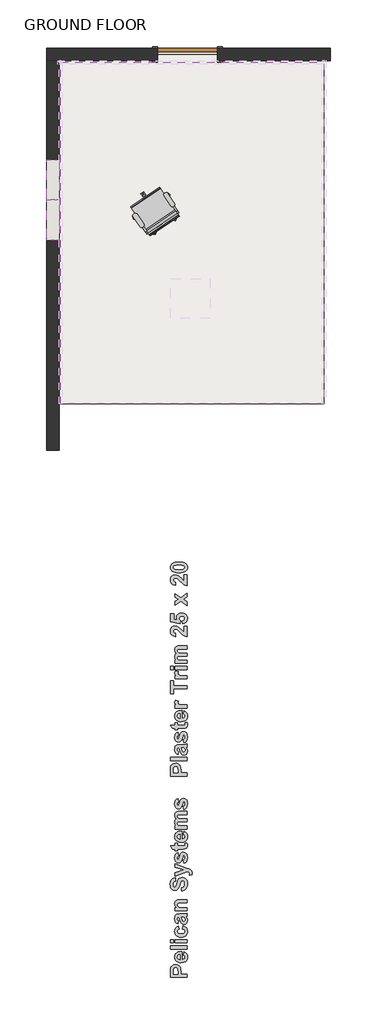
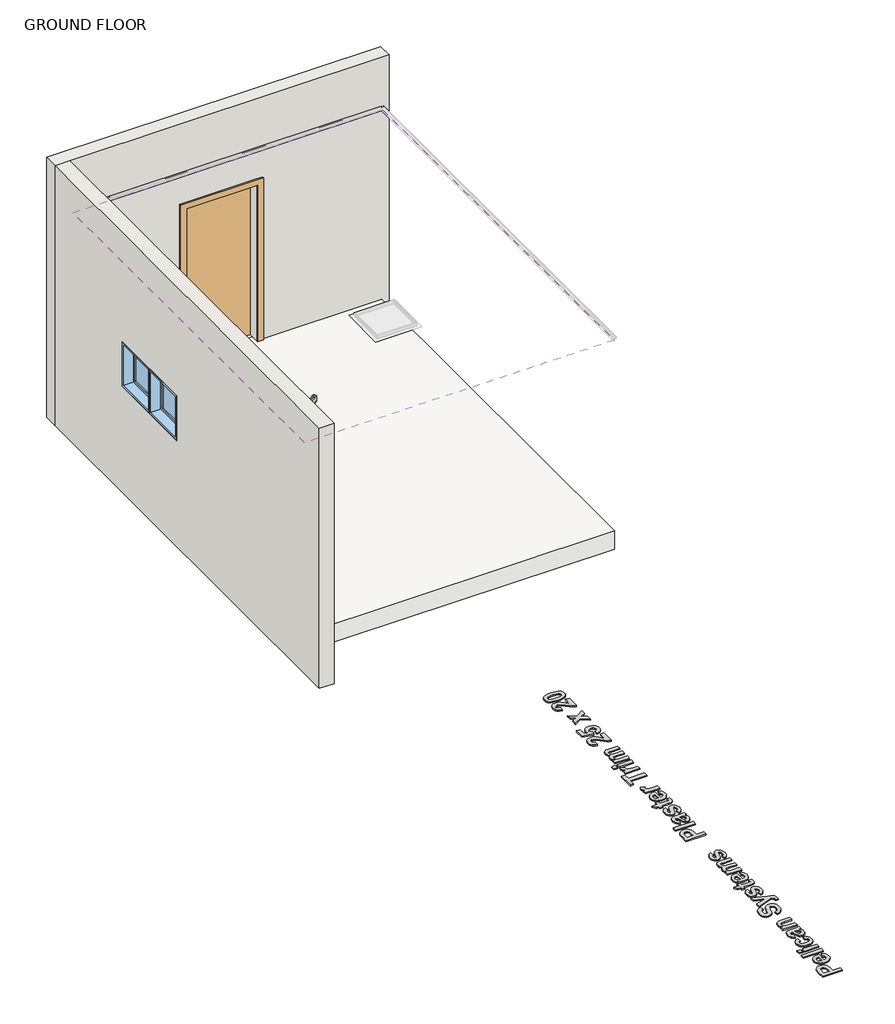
# One storey, part 1 of 2: 2 walls, 2 windows, 1 covering, 1 door, 1 furniture element, 1 proxy, 1 slab.
"""IFC4 building model written with IfcOpenShell, lengths in millimetres."""

from ifc_helpers import new_model, si_unit, frame, origin, origin_with_axes, place, context, project, spatial, polyline, outline, extrude, faceted_brep, transform, mapped, element, save
from components import m_single_flush_0915_x_2134mm_f5238887, chair_task_arms_chair_task_arms_3b363349, m_fixed_0610_x_0610mm_09852ef8

model = new_model("IFC4")

# Units and contexts
model_context = context("Model", 3, world=origin())
ifc_project = project(units=[si_unit("LENGTHUNIT", "METRE", prefix="MILLI")], contexts=[model_context])

# Site, building, storey
site = spatial("IfcSite", under=ifc_project)
building = spatial("IfcBuilding", under=site)
storey = spatial("IfcBuildingStorey", under=building, Name="GROUND FLOOR", Elevation=0.0)

# Proxy
placement = place(None, origin())
element("IfcBuildingElementProxy", 1, Name="600mm Arial", ObjectType="600mm Arial", at=placement, inside=storey, context=model_context, shape_type="SweptSolid", body=[
    extrude(outline(polyline([(114889.8852592, 28315.8799611), (114634.8204092, 28315.8799611), (114634.8204092, 28398.0548718), (114638.6160171, 28458.9743784), (114647.6701234, 28479.0199326), (114663.4456187, 28495.5071043), (114685.3573467, 28506.5380898), (114712.8201513, 28510.2150849), (114734.3048734, 28508.0563329), (114752.0730629, 28501.580077), (114766.2749624, 28491.7747566), (114777.0608148, 28479.6288113), (114789.1118698, 28452.5851052), (114792.7176973, 28398.4976928), (114792.7176973, 28364.4637421), (114889.8852592, 28364.4637421), (114889.8852592, 28315.8799611)]), holes=[polyline([(114679.3555418, 28364.4637421), (114748.1825648, 28364.4637421), (114748.1825648, 28394.6388248), (114744.3869569, 28438.1934253), (114732.4624221, 28455.400181), (114723.6771714, 28460.0735232), (114713.5792729, 28461.631304), (114701.5124028, 28459.4409219), (114691.7545275, 28452.8697757), (114684.764283, 28442.9616577), (114681.0003052, 28430.7603598), (114679.3555418, 28391.0962574), (114679.3555418, 28364.4637421)])]), origin_with_axes(), (0.0, 0.0, 1.0), 15.0),
    extrude(outline(polyline([(114833.2041814, 28655.9664278), (114841.3014783, 28704.5502087), (114863.9723279, 28692.7205641), (114880.4911297, 28675.5770685), (114890.5732131, 28653.2936872), (114893.9339076, 28626.0443856), (114891.9530748, 28604.0417211), (114886.0105762, 28585.0992655), (114876.1064118, 28569.2170187), (114862.2405818, 28556.3949809), (114833.5362971, 28543.0154631), (114798.1580686, 28538.5556238), (114776.3175082, 28540.0343294), (114756.975723, 28544.4704461), (114740.132713, 28551.8639739), (114725.7884782, 28562.2149129), (114714.3304869, 28574.8274017), (114706.1462074, 28589.0055786), (114701.2356397, 28604.7494438), (114699.5987838, 28622.0589973), (114701.2791311, 28641.294031), (114706.3201728, 28658.3861278), (114714.721909, 28673.3352876), (114726.4843397, 28686.1415105), (114741.7181701, 28696.3461604), (114760.5341054, 28703.4906015), (114782.9321457, 28707.5748337), (114808.912291, 28708.5988571), (114808.912291, 28587.1394047), (114829.3769435, 28590.2549662), (114844.7175254, 28598.5894885), (114854.3014353, 28610.8777691), (114857.4960719, 28625.8546052), (114856.0569039, 28636.0553014), (114851.7393999, 28644.516344), (114844.2272593, 28651.1744728), (114833.2041814, 28655.9664278)]), holes=[polyline([(114780.5717521, 28660.0150762), (114761.3643947, 28657.057665), (114747.3918131, 28649.1975937), (114738.8754179, 28637.77914), (114736.0366195, 28624.1465816), (114739.0256607, 28609.7549017), (114747.9927844, 28598.0834075), (114762.1472388, 28590.4289316), (114780.5717521, 28587.9617864), (114780.5717521, 28660.0150762)])]), origin_with_axes(), (0.0, 0.0, 1.0), 15.0),
    extrude(outline(polyline([(114889.8852592, 28745.0366928), (114634.8204092, 28745.0366928), (114634.8204092, 28793.6204738), (114889.8852592, 28793.6204738), (114889.8852592, 28745.0366928)])), origin_with_axes(), (0.0, 0.0, 1.0), 15.0),
    extrude(outline(polyline([(114679.3555418, 28842.2042547), (114634.8204092, 28842.2042547), (114634.8204092, 28890.7880357), (114679.3555418, 28890.7880357), (114679.3555418, 28842.2042547)])), origin_with_axes(), (0.0, 0.0, 1.0), 15.0),
    extrude(outline(polyline([(114889.8852592, 28842.2042547), (114703.6474322, 28842.2042547), (114703.6474322, 28890.7880357), (114889.8852592, 28890.7880357), (114889.8852592, 28842.2042547)])), origin_with_axes(), (0.0, 0.0, 1.0), 15.0),
    extrude(outline(polyline([(114756.2798616, 29093.2204563), (114764.3771584, 29044.6366754), (114752.0177102, 29040.9122351), (114743.1533843, 29034.2936439), (114737.8158107, 29025.0181271), (114736.0366195, 29013.3229103), (114739.3735915, 28997.9190683), (114749.3845073, 28985.9945335), (114767.2080493, 28978.3558726), (114793.9828999, 28975.8096523), (114823.6677166, 28978.4586703), (114843.1360221, 28986.4057244), (114853.9060595, 28998.8126176), (114857.4960719, 29014.8411534), (114855.4480252, 29026.9791912), (114849.3038849, 29036.6975289), (114838.1463792, 29043.9487214), (114821.0582362, 29048.6853238), (114829.155533, 29097.2691047), (114857.298384, 29086.6334951), (114877.5811636, 29069.2764966), (114889.8457216, 29045.0399587), (114893.9339076, 29013.7657312), (114892.324728, 28994.9992178), (114887.4971892, 28978.2372599), (114879.4512913, 28963.4798573), (114868.1870341, 28950.7270102), (114854.0800248, 28940.445262), (114837.5058704, 28933.1011561), (114818.4645708, 28928.6946926), (114796.9561261, 28927.2258714), (114775.2045253, 28928.6848082), (114756.0030985, 28933.0616185), (114739.3518458, 28940.3563024), (114725.2507671, 28950.5688599), (114714.0280244, 28963.272285), (114706.0117796, 28978.039572), (114701.2020328, 28994.8707207), (114699.5987838, 29013.7657312), (114703.1018136, 29043.007727), (114713.6109029, 29065.5757789), (114731.2842022, 29082.1024882), (114756.2798616, 29093.2204563)])), origin_with_axes(), (0.0, 0.0, 1.0), 15.0),
    extrude(outline(polyline([(114760.32851, 29174.1934246), (114752.2312132, 29129.658292), (114728.8882247, 29139.3133696), (114712.5038506, 29154.1083328), (114702.8250505, 29175.6721301), (114699.5987838, 29205.6337099), (114701.5519404, 29232.7248612), (114707.4114101, 29251.876866), (114716.2678285, 29264.8135629), (114727.2118312, 29273.2587904), (114744.220899, 29277.9084101), (114771.2725127, 29279.4582833), (114828.7127121, 29279.4582833), (114864.8975073, 29282.0203186), (114889.8852592, 29291.6042285), (114889.8852592, 29243.0204476), (114874.4497871, 29238.4657181), (114868.3135544, 29236.7576946), (114887.5130043, 29210.7577805), (114892.3286818, 29196.4451758), (114893.9339076, 29181.2152991), (114890.035502, 29156.4410502), (114878.3402852, 29137.5341784), (114860.6986161, 29125.554291), (114838.9608534, 29121.5609952), (114824.0630924, 29123.3401864), (114810.873355, 29128.67776), (114799.9767974, 29137.2257852), (114791.9585757, 29148.6363315), (114780.5084919, 29185.6435083), (114768.4258068, 29230.8745023), (114763.3017362, 29230.8745023), (114750.68134, 29229.3641667), (114742.2993725, 29224.8331598), (114737.6023078, 29216.1269842), (114736.0366195, 29202.0911425), (114737.3808973, 29192.0169666), (114741.4137307, 29184.4415659), (114760.32851, 29174.1934246)]), holes=[polyline([(114804.8636425, 29230.8745023), (114811.6008465, 29203.4828654), (114819.2869525, 29178.9379344), (114826.1981219, 29172.3430657), (114834.7856847, 29170.1447761), (114843.3969701, 29171.9081523), (114850.7588679, 29177.1982808), (114855.8117709, 29185.2085949), (114857.4960719, 29195.1325281), (114855.5350078, 29207.0412478), (114849.6518156, 29218.3489963), (114835.1019854, 29229.1032187), (114813.6568008, 29230.8745023), (114804.8636425, 29230.8745023)])]), origin_with_axes(), (0.0, 0.0, 1.0), 15.0),
    extrude(outline(polyline([(114889.8852592, 29494.0366491), (114889.8852592, 29445.4528682), (114794.1726803, 29445.4528682), (114754.8248786, 29442.4163819), (114740.9709098, 29432.4845412), (114736.0366195, 29415.9736469), (114737.7999957, 29404.21517), (114743.0901242, 29393.7377107), (114751.2981262, 29385.4506335), (114761.8151231, 29380.2633027), (114804.9269027, 29376.6258452), (114889.8852592, 29376.6258452), (114889.8852592, 29328.0420642), (114703.6474322, 29328.0420642), (114703.6474322, 29376.6258452), (114730.469728, 29376.6258452), (114716.9636899, 29388.9180795), (114707.3165199, 29402.7048344), (114701.5282178, 29417.9861099), (114699.5987838, 29434.761906), (114705.481976, 29462.9759246), (114720.4746272, 29482.3335248), (114741.1290601, 29491.4746138), (114774.2457389, 29494.0366491), (114889.8852592, 29494.0366491)])), origin_with_axes(), (0.0, 0.0, 1.0), 15.0),
    extrude(outline(polyline([(114804.8636425, 29627.6420468), (114800.8149941, 29676.2258277), (114822.5448493, 29683.3109624), (114837.6323906, 29695.2038671), (114846.457179, 29711.983617), (114849.3987751, 29733.7292872), (114846.7972022, 29756.2973391), (114838.9924835, 29772.5077478), (114827.7084575, 29782.2814381), (114814.6689629, 29785.5393348), (114799.4549013, 29780.1305936), (114788.5425286, 29761.1841842), (114777.7250462, 29719.0529367), (114766.5438179, 29683.089552), (114752.8638145, 29659.7149334), (114729.5682711, 29641.733241), (114701.6863682, 29635.7393436), (114682.8981091, 29638.4911593), (114665.3750527, 29646.7466065), (114650.4931068, 29660.1893844), (114639.6281792, 29678.5031924), (114632.9858654, 29701.387545), (114630.7717608, 29728.5419564), (114636.2912073, 29770.5071461), (114643.1905154, 29787.0476936), (114652.8495467, 29800.6268762), (114664.8096653, 29811.2881852), (114678.6122352, 29819.075112), (114694.2572565, 29823.9876566), (114711.7447291, 29826.025819), (114711.7447291, 29777.442038), (114695.0519619, 29772.0728344), (114683.815381, 29762.7973176), (114677.4340153, 29748.7614759), (114675.3068933, 29729.1112976), (114677.568443, 29708.4252346), (114684.3530921, 29692.7999821), (114691.1535563, 29686.4423389), (114699.9150845, 29684.3231245), (114708.1863467, 29686.2525585), (114715.1607762, 29692.0408606), (114723.3292406, 29708.844333), (114731.7665607, 29739.6441095), (114740.5439039, 29772.5156553), (114749.732438, 29795.5344356), (114760.8583136, 29811.6657691), (114775.4476814, 29823.8749745), (114793.6824143, 29831.5610805), (114815.7443852, 29834.1231158), (114836.8100089, 29831.094537), (114856.4839098, 29822.0088006), (114873.0264342, 29807.3798952), (114884.6979284, 29787.7218094), (114891.6249128, 29762.8210401), (114893.9339076, 29732.4640846), (114892.5125315, 29709.7616049), (114888.2484033, 29689.858386), (114881.1415229, 29672.754428), (114871.1918904, 29658.4497308), (114858.5181184, 29646.8454504), (114843.2388198, 29637.842743), (114825.3539945, 29631.4416084), (114804.8636425, 29627.6420468)])), origin_with_axes(), (0.0, 0.0, 1.0), 15.0),
    extrude(outline(polyline([(114703.6474322, 29854.3663579), (114703.6474322, 29902.9501388), (114835.4815462, 29945.4609471), (114703.6474322, 29987.9717555), (114703.6474322, 30036.5555364), (114882.104263, 29973.5484455), (114915.2525719, 29961.8453212), (114938.8486009, 29950.3003472), (114952.0699684, 29937.679951), (114959.9458548, 29920.1252645), (114962.7609306, 29896.6241257), (114959.9774849, 29870.5609515), (114923.9824701, 29866.5123031), (114926.3230949, 29885.8066432), (114923.7531521, 29899.5736293), (114916.0433236, 29909.2445219), (114889.8852592, 29920.9160161), (114703.6474322, 29854.3663579)])), origin_with_axes(), (0.0, 0.0, 1.0), 15.0),
    extrude(outline(polyline([(114837.2528298, 30044.6528332), (114829.155533, 30093.2366142), (114841.3963685, 30097.8625113), (114850.2844169, 30105.66723), (114855.6931582, 30116.9196259), (114857.4960719, 30131.8885545), (114855.7722333, 30148.1305933), (114850.6007176, 30159.7862725), (114844.9705659, 30164.5307823), (114837.6956508, 30166.1122856), (114828.5861918, 30162.7594987), (114822.1969186, 30146.8812057), (114809.7663027, 30099.9580032), (114798.4111091, 30074.0687944), (114780.4294168, 30058.0797961), (114756.5961623, 30052.7501301), (114734.4076711, 30057.3206746), (114716.046418, 30071.0323081), (114703.7106924, 30094.3594815), (114699.5987838, 30127.776646), (114702.9199407, 30159.6439372), (114712.8834114, 30182.1170989), (114729.3626757, 30197.1255651), (114752.2312132, 30206.5987698), (114760.32851, 30158.0149888), (114749.9380334, 30154.4407914), (114742.2993725, 30148.6524893), (114737.6023078, 30140.302152), (114736.0366195, 30129.0418486), (114737.3650823, 30115.2036948), (114741.3504706, 30105.9519006), (114751.2190511, 30101.333911), (114760.0122094, 30105.9519006), (114773.6131376, 30148.9371599), (114783.434273, 30180.1639423), (114795.3113627, 30200.2727566), (114810.9840603, 30211.0902391), (114831.8124585, 30214.6960666), (114855.5112853, 30209.4691982), (114875.6200996, 30193.7885931), (114883.6323906, 30182.0795382), (114889.3554556, 30167.8598468), (114893.9339076, 30131.8885545), (114890.1224847, 30098.5741878), (114878.6882159, 30073.0250022), (114860.7065236, 30055.0986625), (114837.2528298, 30044.6528332)])), origin_with_axes(), (0.0, 0.0, 1.0), 15.0),
    extrude(outline(polyline([(114703.6474322, 30348.3014642), (114740.0852679, 30348.3014642), (114740.0852679, 30311.8636285), (114819.982814, 30311.8636285), (114848.2284627, 30312.9706808), (114854.8707765, 30317.9998612), (114857.4960719, 30327.5521411), (114852.8148222, 30350.3257884), (114887.354854, 30352.3501126), (114892.2891442, 30333.6092987), (114893.9339076, 30312.5594899), (114889.3791782, 30288.0145589), (114877.6127937, 30271.9781156), (114858.0654131, 30264.8613508), (114822.7029996, 30263.2798475), (114740.0852679, 30263.2798475), (114740.0852679, 30238.9879571), (114703.6474322, 30238.9879571), (114703.6474322, 30263.2798475), (114667.2095965, 30263.2798475), (114638.8690576, 30311.8636285), (114703.6474322, 30311.8636285), (114703.6474322, 30348.3014642)])), origin_with_axes(), (0.0, 0.0, 1.0), 15.0),
    extrude(outline(polyline([(114833.2041814, 30481.9068618), (114841.3014783, 30530.4906428), (114863.9723279, 30518.6609982), (114880.4911297, 30501.5175026), (114890.5732131, 30479.2341212), (114893.9339076, 30451.9848196), (114891.9530748, 30429.9821552), (114886.0105762, 30411.0396996), (114876.1064118, 30395.1574528), (114862.2405818, 30382.3354149), (114833.5362971, 30368.9558971), (114798.1580686, 30364.4960578), (114776.3175082, 30365.9747634), (114756.975723, 30370.4108801), (114740.132713, 30377.804408), (114725.7884782, 30388.155347), (114714.3304869, 30400.7678357), (114706.1462074, 30414.9460127), (114701.2356397, 30430.6898779), (114699.5987838, 30447.9994313), (114701.2791311, 30467.2344651), (114706.3201728, 30484.3265618), (114714.721909, 30499.2757216), (114726.4843397, 30512.0819445), (114741.7181701, 30522.2865945), (114760.5341054, 30529.4310356), (114782.9321457, 30533.5152678), (114808.912291, 30534.5392912), (114808.912291, 30413.0798388), (114829.3769435, 30416.1954003), (114844.7175254, 30424.5299226), (114854.3014353, 30436.8182031), (114857.4960719, 30451.7950392), (114856.0569039, 30461.9957354), (114851.7393999, 30470.456778), (114844.2272593, 30477.1149068), (114833.2041814, 30481.9068618)]), holes=[polyline([(114780.5717521, 30485.9555102), (114761.3643947, 30482.9980991), (114747.3918131, 30475.1380277), (114738.8754179, 30463.719574), (114736.0366195, 30450.0870157), (114739.0256607, 30435.6953358), (114747.9927844, 30424.0238415), (114762.1472388, 30416.3693656), (114780.5717521, 30413.9022205), (114780.5717521, 30485.9555102)])]), origin_with_axes(), (0.0, 0.0, 1.0), 15.0),
    extrude(outline(polyline([(114703.6474322, 30566.9284785), (114703.6474322, 30615.5122594), (114728.571924, 30615.5122594), (114715.8961752, 30627.472378), (114706.8420689, 30640.5158264), (114701.4096051, 30654.6426045), (114699.5987838, 30669.8527123), (114701.377975, 30685.5016873), (114706.7155486, 30698.9207427), (114715.6589497, 30710.1256935), (114728.2556234, 30719.1323547), (114715.6589497, 30731.5708781), (114706.7155486, 30744.9741184), (114701.377975, 30759.3262607), (114699.5987838, 30774.61149), (114701.6784606, 30793.0676334), (114707.9174911, 30808.4556603), (114718.1893549, 30820.5699755), (114732.3675319, 30829.2049834), (114747.9453393, 30832.9057011), (114770.892952, 30834.1392737), (114889.8852592, 30834.1392737), (114889.8852592, 30785.5554927), (114782.6593364, 30785.5554927), (114759.7117237, 30784.3219202), (114746.6643216, 30780.6212025), (114738.6935451, 30772.2392351), (114736.0366195, 30760.2514402), (114737.6260303, 30750.5489175), (114742.3942627, 30741.4315511), (114750.2306115, 30733.8403353), (114761.0243715, 30728.7162646), (114799.802832, 30724.8257666), (114889.8852592, 30724.8257666), (114889.8852592, 30676.2419856), (114787.0875456, 30676.2419856), (114751.7567622, 30673.7115803), (114739.9271176, 30665.8989541), (114736.0366195, 30651.5072742), (114737.5785852, 30641.1167976), (114742.2044823, 30631.8333733), (114749.748253, 30624.3370478), (114760.0438394, 30619.3078673), (114798.7274098, 30615.5122594), (114889.8852592, 30615.5122594), (114889.8852592, 30566.9284785), (114703.6474322, 30566.9284785)])), origin_with_axes(), (0.0, 0.0, 1.0), 15.0),
    extrude(outline(polyline([(114837.2528298, 30862.4798126), (114829.155533, 30911.0635935), (114841.3963685, 30915.6894906), (114850.2844169, 30923.4942094), (114855.6931582, 30934.7466052), (114857.4960719, 30949.7155338), (114855.7722333, 30965.9575726), (114850.6007176, 30977.6132518), (114844.9705659, 30982.3577617), (114837.6956508, 30983.939265), (114828.5861918, 30980.586478), (114822.1969186, 30964.708185), (114809.7663027, 30917.7849825), (114798.4111091, 30891.8957737), (114780.4294168, 30875.9067755), (114756.5961623, 30870.5771094), (114734.4076711, 30875.1476539), (114716.046418, 30888.8592874), (114703.7106924, 30912.1864609), (114699.5987838, 30945.6036253), (114702.9199407, 30977.4709165), (114712.8834114, 30999.9440782), (114729.3626757, 31014.9525444), (114752.2312132, 31024.4257491), (114760.32851, 30975.8419681), (114749.9380334, 30972.2677707), (114742.2993725, 30966.4794687), (114737.6023078, 30958.1291313), (114736.0366195, 30946.8688279), (114737.3650823, 30933.0306742), (114741.3504706, 30923.77888), (114751.2190511, 30919.1608904), (114760.0122094, 30923.77888), (114773.6131376, 30966.7641393), (114783.434273, 30997.9909217), (114795.3113627, 31018.0997359), (114810.9840603, 31028.9172184), (114831.8124585, 31032.5230459), (114855.5112853, 31027.2961775), (114875.6200996, 31011.6155725), (114883.6323906, 30999.9065175), (114889.3554556, 30985.6868261), (114893.9339076, 30949.7155338), (114890.1224847, 30916.4011671), (114878.6882159, 30890.8519815), (114860.7065236, 30872.9256418), (114837.2528298, 30862.4798126)])), origin_with_axes(), (0.0, 0.0, 1.0), 15.0),
    extrude(outline(polyline([(114889.8852592, 31368.5608641), (114634.8204092, 31368.5608641), (114634.8204092, 31450.7357749), (114638.6160171, 31511.6552815), (114647.6701234, 31531.7008356), (114663.4456187, 31548.1880074), (114685.3573467, 31559.2189928), (114712.8201513, 31562.8959879), (114734.3048734, 31560.737236), (114752.0730629, 31554.26098), (114766.2749624, 31544.4556596), (114777.0608148, 31532.3097144), (114789.1118698, 31505.2660082), (114792.7176973, 31451.1785958), (114792.7176973, 31417.1446451), (114889.8852592, 31417.1446451), (114889.8852592, 31368.5608641)]), holes=[polyline([(114679.3555418, 31417.1446451), (114748.1825648, 31417.1446451), (114748.1825648, 31447.3197278), (114744.3869569, 31490.8743283), (114732.4624221, 31508.081084), (114723.6771714, 31512.7544263), (114713.5792729, 31514.312207), (114701.5124028, 31512.1218249), (114691.7545275, 31505.5506788), (114684.764283, 31495.6425607), (114681.0003052, 31483.4412629), (114679.3555418, 31443.7771604), (114679.3555418, 31417.1446451)])]), origin_with_axes(), (0.0, 0.0, 1.0), 15.0),
    extrude(outline(polyline([(114889.8852592, 31603.3824721), (114634.8204092, 31603.3824721), (114634.8204092, 31651.966253), (114889.8852592, 31651.966253), (114889.8852592, 31603.3824721)])), origin_with_axes(), (0.0, 0.0, 1.0), 15.0),
    extrude(outline(polyline([(114760.32851, 31741.0365181), (114752.2312132, 31696.5013856), (114728.8882247, 31706.1564631), (114712.5038506, 31720.9514264), (114702.8250505, 31742.5152237), (114699.5987838, 31772.4768034), (114701.5519404, 31799.5679547), (114707.4114101, 31818.7199595), (114716.2678285, 31831.6566564), (114727.2118312, 31840.1018839), (114744.220899, 31844.7515036), (114771.2725127, 31846.3013768), (114828.7127121, 31846.3013768), (114864.8975073, 31848.8634121), (114889.8852592, 31858.4473221), (114889.8852592, 31809.8635411), (114874.4497871, 31805.3088116), (114868.3135544, 31803.6007881), (114887.5130043, 31777.6008741), (114892.3286818, 31763.2882693), (114893.9339076, 31748.0583927), (114890.035502, 31723.2841437), (114878.3402852, 31704.3772719), (114860.6986161, 31692.3973845), (114838.9608534, 31688.4040887), (114824.0630924, 31690.1832799), (114810.873355, 31695.5208535), (114799.9767974, 31704.0688788), (114791.9585757, 31715.479425), (114780.5084919, 31752.4866019), (114768.4258068, 31797.7175959), (114763.3017362, 31797.7175959), (114750.68134, 31796.2072602), (114742.2993725, 31791.6762533), (114737.6023078, 31782.9700777), (114736.0366195, 31768.9342361), (114737.3808973, 31758.8600601), (114741.4137307, 31751.2846594), (114760.32851, 31741.0365181)]), holes=[polyline([(114804.8636425, 31797.7175959), (114811.6008465, 31770.325959), (114819.2869525, 31745.781028), (114826.1981219, 31739.1861593), (114834.7856847, 31736.9878697), (114843.3969701, 31738.7512459), (114850.7588679, 31744.0413743), (114855.8117709, 31752.0516885), (114857.4960719, 31761.9756216), (114855.5350078, 31773.8843414), (114849.6518156, 31785.1920898), (114835.1019854, 31795.9463122), (114813.6568008, 31797.7175959), (114804.8636425, 31797.7175959)])]), origin_with_axes(), (0.0, 0.0, 1.0), 15.0),
    extrude(outline(polyline([(114837.2528298, 31874.6419157), (114829.155533, 31923.2256967), (114841.3963685, 31927.8515938), (114850.2844169, 31935.6563125), (114855.6931582, 31946.9087084), (114857.4960719, 31961.877637), (114855.7722333, 31978.1196757), (114850.6007176, 31989.7753549), (114844.9705659, 31994.5198648), (114837.6956508, 31996.1013681), (114828.5861918, 31992.7485811), (114822.1969186, 31976.8702881), (114809.7663027, 31929.9470856), (114798.4111091, 31904.0578768), (114780.4294168, 31888.0688786), (114756.5961623, 31882.7392125), (114734.4076711, 31887.309757), (114716.046418, 31901.0213905), (114703.7106924, 31924.348564), (114699.5987838, 31957.7657284), (114702.9199407, 31989.6330196), (114712.8834114, 32012.1061813), (114729.3626757, 32027.1146475), (114752.2312132, 32036.5878522), (114760.32851, 31988.0040713), (114749.9380334, 31984.4298738), (114742.2993725, 31978.6415718), (114737.6023078, 31970.2912345), (114736.0366195, 31959.0309311), (114737.3650823, 31945.1927773), (114741.3504706, 31935.9409831), (114751.2190511, 31931.3229935), (114760.0122094, 31935.9409831), (114773.6131376, 31978.9262424), (114783.434273, 32010.1530248), (114795.3113627, 32030.2618391), (114810.9840603, 32041.0793215), (114831.8124585, 32044.685149), (114855.5112853, 32039.4582807), (114875.6200996, 32023.7776756), (114883.6323906, 32012.0686206), (114889.3554556, 31997.8489292), (114893.9339076, 31961.877637), (114890.1224847, 31928.5632703), (114878.6882159, 31903.0140847), (114860.7065236, 31885.0877449), (114837.2528298, 31874.6419157)])), origin_with_axes(), (0.0, 0.0, 1.0), 15.0),
    extrude(outline(polyline([(114703.6474322, 32178.2905467), (114740.0852679, 32178.2905467), (114740.0852679, 32141.8527109), (114819.982814, 32141.8527109), (114848.2284627, 32142.9597632), (114854.8707765, 32147.9889437), (114857.4960719, 32157.5412235), (114852.8148222, 32180.3148709), (114887.354854, 32182.3391951), (114892.2891442, 32163.5983811), (114893.9339076, 32142.5485724), (114889.3791782, 32118.0036414), (114877.6127937, 32101.9671981), (114858.0654131, 32094.8504333), (114822.7029996, 32093.26893), (114740.0852679, 32093.26893), (114740.0852679, 32068.9770395), (114703.6474322, 32068.9770395), (114703.6474322, 32093.26893), (114667.2095965, 32093.26893), (114638.8690576, 32141.8527109), (114703.6474322, 32141.8527109), (114703.6474322, 32178.2905467)])), origin_with_axes(), (0.0, 0.0, 1.0), 15.0),
    extrude(outline(polyline([(114833.2041814, 32311.8959443), (114841.3014783, 32360.4797252), (114863.9723279, 32348.6500806), (114880.4911297, 32331.506585), (114890.5732131, 32309.2232037), (114893.9339076, 32281.9739021), (114891.9530748, 32259.9712376), (114886.0105762, 32241.028782), (114876.1064118, 32225.1465353), (114862.2405818, 32212.3244974), (114833.5362971, 32198.9449796), (114798.1580686, 32194.4851403), (114776.3175082, 32195.9638459), (114756.975723, 32200.3999626), (114740.132713, 32207.7934905), (114725.7884782, 32218.1444295), (114714.3304869, 32230.7569182), (114706.1462074, 32244.9350951), (114701.2356397, 32260.6789603), (114699.5987838, 32277.9885138), (114701.2791311, 32297.2235475), (114706.3201728, 32314.3156443), (114714.721909, 32329.2648041), (114726.4843397, 32342.071027), (114741.7181701, 32352.2756769), (114760.5341054, 32359.420118), (114782.9321457, 32363.5043503), (114808.912291, 32364.5283736), (114808.912291, 32243.0689213), (114829.3769435, 32246.1844827), (114844.7175254, 32254.519005), (114854.3014353, 32266.8072856), (114857.4960719, 32281.7841217), (114856.0569039, 32291.9848179), (114851.7393999, 32300.4458605), (114844.2272593, 32307.1039893), (114833.2041814, 32311.8959443)]), holes=[polyline([(114780.5717521, 32315.9445927), (114761.3643947, 32312.9871815), (114747.3918131, 32305.1271102), (114738.8754179, 32293.7086565), (114736.0366195, 32280.0760981), (114739.0256607, 32265.6844182), (114747.9927844, 32254.012924), (114762.1472388, 32246.3584481), (114780.5717521, 32243.891303), (114780.5717521, 32315.9445927)])]), origin_with_axes(), (0.0, 0.0, 1.0), 15.0),
    extrude(outline(polyline([(114889.8852592, 32449.5499903), (114889.8852592, 32400.9662093), (114703.6474322, 32400.9662093), (114703.6474322, 32449.5499903), (114729.5840861, 32449.5499903), (114705.3870858, 32468.9708506), (114699.5987838, 32488.5814914), (114702.1608191, 32503.7481079), (114709.8469251, 32518.3770133), (114756.0900812, 32504.2067439), (114750.1594439, 32492.5036195), (114748.1825648, 32481.6861371), (114753.7178263, 32464.5742715), (114761.4750999, 32458.3273335), (114773.6763977, 32453.5670086), (114834.1530834, 32449.5499903), (114889.8852592, 32449.5499903)])), origin_with_axes(), (0.0, 0.0, 1.0), 15.0),
    extrude(outline(polyline([(114889.8852592, 32692.468895), (114679.3555418, 32692.468895), (114679.3555418, 32619.5932236), (114634.8204092, 32619.5932236), (114634.8204092, 32813.9283474), (114679.3555418, 32813.9283474), (114679.3555418, 32741.052676), (114889.8852592, 32741.052676), (114889.8852592, 32692.468895)])), origin_with_axes(), (0.0, 0.0, 1.0), 15.0),
    extrude(outline(polyline([(114889.8852592, 32894.9013157), (114889.8852592, 32846.3175347), (114703.6474322, 32846.3175347), (114703.6474322, 32894.9013157), (114729.5840861, 32894.9013157), (114705.3870858, 32914.322176), (114699.5987838, 32933.9328168), (114702.1608191, 32949.0994333), (114709.8469251, 32963.7283387), (114756.0900812, 32949.5580692), (114750.1594439, 32937.8549449), (114748.1825648, 32927.0374624), (114753.7178263, 32909.9255969), (114761.4750999, 32903.6786589), (114773.6763977, 32898.918334), (114834.1530834, 32894.9013157), (114889.8852592, 32894.9013157)])), origin_with_axes(), (0.0, 0.0, 1.0), 15.0),
    extrude(outline(polyline([(114679.3555418, 32983.9715807), (114634.8204092, 32983.9715807), (114634.8204092, 33032.5553617), (114679.3555418, 33032.5553617), (114679.3555418, 32983.9715807)])), origin_with_axes(), (0.0, 0.0, 1.0), 15.0),
    extrude(outline(polyline([(114889.8852592, 32983.9715807), (114703.6474322, 32983.9715807), (114703.6474322, 33032.5553617), (114889.8852592, 33032.5553617), (114889.8852592, 32983.9715807)])), origin_with_axes(), (0.0, 0.0, 1.0), 15.0),
    extrude(outline(polyline([(114703.6474322, 33077.0904942), (114703.6474322, 33125.6742752), (114728.571924, 33125.6742752), (114715.8961752, 33137.6343938), (114706.8420689, 33150.6778421), (114701.4096051, 33164.8046202), (114699.5987838, 33180.0147281), (114701.377975, 33195.6637031), (114706.7155486, 33209.0827585), (114715.6589497, 33220.2877093), (114728.2556234, 33229.2943705), (114715.6589497, 33241.7328938), (114706.7155486, 33255.1361342), (114701.377975, 33269.4882765), (114699.5987838, 33284.7735058), (114701.6784606, 33303.2296491), (114707.9174911, 33318.6176761), (114718.1893549, 33330.7319913), (114732.3675319, 33339.3669992), (114747.9453393, 33343.0677169), (114770.892952, 33344.3012895), (114889.8852592, 33344.3012895), (114889.8852592, 33295.7175085), (114782.6593364, 33295.7175085), (114759.7117237, 33294.4839359), (114746.6643216, 33290.7832183), (114738.6935451, 33282.4012508), (114736.0366195, 33270.4134559), (114737.6260303, 33260.7109333), (114742.3942627, 33251.5935668), (114750.2306115, 33244.0023511), (114761.0243715, 33238.8782804), (114799.802832, 33234.9877823), (114889.8852592, 33234.9877823), (114889.8852592, 33186.4040014), (114787.0875456, 33186.4040014), (114751.7567622, 33183.8735961), (114739.9271176, 33176.0609699), (114736.0366195, 33161.66929), (114737.5785852, 33151.2788134), (114742.2044823, 33141.9953891), (114749.748253, 33134.4990635), (114760.0438394, 33129.4698831), (114798.7274098, 33125.6742752), (114889.8852592, 33125.6742752), (114889.8852592, 33077.0904942), (114703.6474322, 33077.0904942)])), origin_with_axes(), (0.0, 0.0, 1.0), 15.0),
    extrude(outline(polyline([(114841.3014783, 33643.901272), (114889.8852592, 33643.901272), (114889.8852592, 33481.9553355), (114865.3798658, 33487.1268512), (114842.2187502, 33497.4540677), (114816.0369633, 33516.6377026), (114782.469556, 33548.3784735), (114741.7300314, 33585.9549916), (114727.0220508, 33592.9768662), (114712.5038506, 33595.317491), (114698.3573037, 33593.3485194), (114687.9272896, 33587.4416047), (114681.4984787, 33578.0711977), (114679.3555418, 33565.7117495), (114681.4668486, 33553.439284), (114687.8007693, 33543.9502643), (114699.0215351, 33537.560991), (114715.7933775, 33534.5877648), (114711.3651683, 33486.0039839), (114676.2162577, 33494.6073618), (114662.9770984, 33502.2302076), (114652.6281362, 33512.0671581), (114639.272341, 33536.6911642), (114634.8204092, 33566.7871718), (114639.8100521, 33598.9233185), (114654.7789807, 33623.3417293), (114677.1651597, 33638.7613863), (114704.4065538, 33643.901272), (114736.5427006, 33638.2711203), (114768.489067, 33620.4317632), (114800.3721732, 33590.2250505), (114828.0168507, 33562.4854828), (114841.3014783, 33553.3760239), (114841.3014783, 33643.901272)])), origin_with_axes(), (0.0, 0.0, 1.0), 15.0),
    extrude(outline(polyline([(114818.08501, 33676.2904593), (114812.9609394, 33720.8255918), (114828.0326657, 33724.9691304), (114839.5934547, 33733.2245776), (114846.947445, 33744.3267307), (114849.3987751, 33757.010387), (114846.7972022, 33771.204379), (114838.9924835, 33783.0419311), (114825.9529889, 33791.0364302), (114807.6470883, 33793.7012633), (114790.4877777, 33791.2262106), (114778.2311272, 33783.8010527), (114770.8771369, 33772.4063215), (114768.4258068, 33758.0225491), (114773.4866173, 33739.20266), (114788.6690489, 33722.4703552), (114782.4062959, 33680.3391077), (114638.8690576, 33708.6796466), (114638.8690576, 33830.139099), (114687.4528386, 33830.139099), (114687.4528386, 33747.9641882), (114733.8225149, 33738.1588678), (114726.3736345, 33753.641785), (114723.8906743, 33769.4726329), (114729.6394387, 33797.5917613), (114746.8857321, 33821.0929002), (114773.3047445, 33836.9870082), (114806.5716661, 33842.2850442), (114835.4973612, 33837.87265), (114861.1651595, 33824.6354675), (114875.5014868, 33811.4180538), (114885.7417206, 33795.8679228), (114891.8858609, 33777.9850743), (114893.9339076, 33757.7695086), (114888.7940219, 33726.7641367), (114873.3743649, 33702.0689629), (114849.2722548, 33684.8542996), (114818.08501, 33676.2904593)])), origin_with_axes(), (0.0, 0.0, 1.0), 15.0),
    extrude(outline(polyline([(114889.8852592, 33953.6228755), (114793.9828999, 34019.4134122), (114703.6474322, 33961.7201724), (114703.6474322, 34019.4766724), (114754.8248786, 34047.5641707), (114703.6474322, 34078.0555541), (114703.6474322, 34135.8120541), (114791.8320555, 34076.4107907), (114889.8852592, 34143.9093509), (114889.8852592, 34086.1528509), (114832.1920193, 34047.5641707), (114889.8852592, 34011.3793756), (114889.8852592, 33953.6228755)])), origin_with_axes(), (0.0, 0.0, 1.0), 15.0),
    extrude(outline(polyline([(114841.3014783, 34421.2417672), (114889.8852592, 34421.2417672), (114889.8852592, 34259.2958307), (114865.3798658, 34264.4673464), (114842.2187502, 34274.7945629), (114816.0369633, 34293.9781978), (114782.469556, 34325.7189687), (114741.7300314, 34363.2954868), (114727.0220508, 34370.3173614), (114712.5038506, 34372.6579862), (114698.3573037, 34370.6890147), (114687.9272896, 34364.7820999), (114681.4984787, 34355.4116929), (114679.3555418, 34343.0522447), (114681.4668486, 34330.7797792), (114687.8007693, 34321.2907595), (114699.0215351, 34314.9014862), (114715.7933775, 34311.9282601), (114711.3651683, 34263.3444791), (114676.2162577, 34271.947857), (114662.9770984, 34279.5707028), (114652.6281362, 34289.4076533), (114639.272341, 34314.0316594), (114634.8204092, 34344.127667), (114639.8100521, 34376.2638137), (114654.7789807, 34400.6822245), (114677.1651597, 34416.1018815), (114704.4065538, 34421.2417672), (114736.5427006, 34415.6116155), (114768.489067, 34397.7722584), (114800.3721732, 34367.5655457), (114828.0168507, 34339.825978), (114841.3014783, 34330.7165191), (114841.3014783, 34421.2417672)])), origin_with_axes(), (0.0, 0.0, 1.0), 15.0),
    extrude(outline(polyline([(114634.8204092, 34534.6039227), (114636.4651726, 34551.7355571), (114641.3994629, 34566.8824048), (114649.62328, 34580.0444659), (114661.1366239, 34591.2217404), (114679.2646053, 34601.8771188), (114702.5245649, 34609.4881033), (114730.9165026, 34614.0546941), (114764.4404186, 34615.576891), (114797.9327044, 34614.0467866), (114826.3562722, 34609.4564733), (114849.711122, 34601.8059511), (114867.9972537, 34591.0952201), (114879.3445398, 34579.9732983), (114887.4497441, 34566.8507747), (114892.3128668, 34551.7276496), (114893.9339076, 34534.6039227), (114892.1547164, 34517.2963462), (114886.8171428, 34501.748192), (114877.9211869, 34487.9594602), (114865.4668485, 34475.9301508), (114848.4459194, 34466.1742524), (114825.8501912, 34459.2057536), (114797.6796639, 34455.0246543), (114763.9343375, 34453.6309545), (114730.6081095, 34455.1610589), (114702.3031544, 34459.7513722), (114679.0194723, 34467.4018944), (114660.7570631, 34478.1126254), (114649.409777, 34489.2345472), (114641.3045727, 34502.3570707), (114636.4414501, 34517.4801959), (114634.8204092, 34534.6039227)]), holes=[polyline([(114679.3555418, 34534.6039227), (114684.7010229, 34518.4093291), (114692.1736259, 34512.0833159), (114703.9004728, 34507.4020662), (114728.0500279, 34503.5115681), (114764.4404186, 34502.2147354), (114800.3484507, 34503.3692328), (114822.9244101, 34506.832725), (114836.1774076, 34512.0595934), (114844.1165541, 34518.5042193), (114849.3987751, 34534.6039227), (114844.053294, 34550.7985164), (114836.580691, 34557.1245295), (114824.8538441, 34561.8057793), (114800.8308092, 34565.6962773), (114764.4404186, 34566.99311), (114728.571924, 34565.8386126), (114705.9880571, 34562.3751204), (114692.695522, 34557.1482521), (114684.7010229, 34550.7036262), (114679.3555418, 34534.6039227)])]), origin_with_axes(), (0.0, 0.0, 1.0), 15.0),
])

# Covering
element("IfcCovering", 2, ObjectType="_C2.3 - 12mm FLUSHPLASTER CEILING (UNDER CONCRETE SOFFIT)", at=placement, inside=storey, context=model_context, shape_type="SweptSolid", body=[
    extrude(outline(polyline([(112967.7345529, 42191.9193804), (116966.7345529, 42191.9193804), (116966.7345529, 37012.9193804), (112967.7345529, 37012.9193804), (112967.7345529, 42191.9193804)]), holes=[polyline([(114682.6212716, 38869.9489557), (114682.6212716, 38359.2489557), (115193.3212716, 38359.2489557), (115193.3212716, 38869.9489557), (114682.6212716, 38869.9489557)])]), frame((0.0, 0.0, 2600.0), z_axis=(0.0, 0.0, 1.0), x_axis=(1.0, 0.0, 0.0)), (0.0, 0.0, 1.0), 11.0),
])

# Door
m_single_flush_0915_x_2134mm_shape = m_single_flush_0915_x_2134mm_f5238887(model_context)
element("IfcDoor", 3, ObjectType="M_Single-Flush : 0915 x 2134mm", at=placement, inside=storey, context=model_context, shape_type="MappedRepresentation", body=[
    mapped(m_single_flush_0915_x_2134mm_shape, transform((114894.7345529, 42312.9193804, 0.0), x_axis=(1.0, 0.0, 0.0), y_axis=(0.0, 1.0, 0.0), z_axis=(0.0, 0.0, 1.0))),
])

# Furniture
chair_task_arms_chair_task_arms_shape = chair_task_arms_chair_task_arms_3b363349(model_context)
element("IfcFurniture", 4, ObjectType="Chair-Task Arms : Chair-Task Arms", at=placement, inside=storey, context=model_context, shape_type="MappedRepresentation", body=[
    mapped(chair_task_arms_chair_task_arms_shape, transform((114292.677586, 39836.7323612, 0.0), x_axis=(0.8290375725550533, 0.5591929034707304, 0.0), y_axis=(-0.5591929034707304, 0.8290375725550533, 0.0), z_axis=(0.0, 0.0, 1.0))),
])

# Slab
element("IfcSlab", 5, ObjectType="Generic Floor - 250mm", at=placement, inside=storey, context=model_context, shape_type="Brep", body=[
    faceted_brep([(112866.7345529, 42312.9193804, -250.0), (116966.7345529, 42312.9193804, -250.0), (116966.7345529, 42217.9193804, -250.0), (116966.7345529, 37012.9193804, -250.0), (112866.7345529, 37012.9193804, -250.0), (112866.7345529, 42217.9193804, -250.0), (112866.7345529, 42312.9193804, 0.0), (112866.7345529, 42217.9193804, 0.0), (112866.7345529, 37012.9193804, 0.0), (116966.7345529, 37012.9193804, 0.0), (116966.7345529, 42217.9193804, 0.0), (116966.7345529, 42312.9193804, 0.0), (115352.2345529, 42312.9193804, 0.0), (114437.2345529, 42312.9193804, 0.0)], [[[0, 1, 2, 3, 4, 5]], [[6, 7, 8, 9, 10, 11, 12, 13]], [[1, 0, 6, 13, 12, 11]], [[3, 2, 1, 11, 10, 9]], [[4, 3, 9, 8]], [[0, 5, 4, 8, 7, 6]]]),
])

# Walls
element("IfcWall", 6, ObjectType="190mm MAXI BLOCK- plastered", at=placement, inside=storey, context=model_context, shape_type="Brep", body=[
    faceted_brep([(117061.7345529, 42217.9193804, -250.0), (117061.7345529, 42217.9193804, 3300.0), (112942.7345529, 42217.9193804, 3300.0), (112752.7345529, 42217.9193804, 3300.0), (112752.7345529, 42217.9193804, -250.0), (112866.7345529, 42217.9193804, -250.0), (112866.7345529, 42217.9193804, 0.0), (114437.2345529, 42217.9193804, 0.0), (114437.2345529, 42217.9193804, 2134.0), (115352.2345529, 42217.9193804, 2134.0), (115352.2345529, 42217.9193804, 0.0), (116966.7345529, 42217.9193804, 0.0), (116966.7345529, 42217.9193804, -250.0), (117061.7345529, 42407.9193804, -250.0), (112752.7345529, 42407.9193804, -250.0), (112752.7345529, 42407.9193804, 3300.0), (117061.7345529, 42407.9193804, 3300.0), (114437.2345529, 42407.9193804, 0.0), (115352.2345529, 42407.9193804, 0.0), (115352.2345529, 42407.9193804, 2134.0), (114437.2345529, 42407.9193804, 2134.0), (116966.7345529, 42312.9193804, -250.0), (112866.7345529, 42312.9193804, -250.0), (114437.2345529, 42312.9193804, 0.0), (115352.2345529, 42312.9193804, 0.0), (112866.7345529, 42312.9193804, 0.0), (116966.7345529, 42312.9193804, 0.0)], [[[0, 1, 2, 3, 4, 5, 6, 7, 8, 9, 10, 11, 12]], [[13, 14, 15, 16], [17, 18, 19, 20]], [[14, 13, 0, 12, 21, 22, 5, 4]], [[1, 0, 13, 16]], [[3, 2, 1, 16, 15]], [[18, 17, 23, 24]], [[19, 18, 24, 10, 9]], [[20, 19, 9, 8]], [[17, 20, 8, 7, 23]], [[25, 23, 7, 6]], [[24, 26, 11, 10]], [[25, 22, 21, 26, 24, 23]], [[22, 25, 6, 5]], [[26, 21, 12, 11]], [[4, 3, 15, 14]]]),
])
element("IfcWall", 7, ObjectType="190mm MAXI BLOCK- plastered", at=placement, inside=storey, context=model_context, shape_type="SweptSolid", body=[
    extrude(outline(polyline([(42217.9193804, -250.0), (36312.9193804, -250.0), (36312.9193804, 3300.0), (42217.9193804, 3300.0), (42217.9193804, -250.0)]), holes=[polyline([(39497.9193804, 1200.0), (40717.9193804, 1200.0), (40717.9193804, 1810.0), (39497.9193804, 1810.0), (39497.9193804, 1200.0)])]), frame((112752.7345529, 0.0, 0.0), z_axis=(1.0, 0.0, 0.0), x_axis=(0.0, 1.0, 0.0)), (0.0, 0.0, 1.0), 190.0),
])

# Windows
m_fixed_0610_x_0610mm_shape = m_fixed_0610_x_0610mm_09852ef8(model_context)
element("IfcWindow", 8, ObjectType="M_Fixed : 0610 x 0610mm", at=placement, inside=storey, context=model_context, shape_type="MappedRepresentation", body=[
    mapped(m_fixed_0610_x_0610mm_shape, transform((112834.7345529, 40412.9193804, 285.0), x_axis=(0.0, -1.0, 0.0), y_axis=(1.0, 0.0, 0.0), z_axis=(0.0, 0.0, 1.0))),
])
element("IfcWindow", 9, ObjectType="M_Fixed : 0610 x 0610mm", at=placement, inside=storey, context=model_context, shape_type="MappedRepresentation", body=[
    mapped(m_fixed_0610_x_0610mm_shape, transform((112834.7345529, 39802.9193804, 285.0), x_axis=(0.0, -1.0, 0.0), y_axis=(1.0, 0.0, 0.0), z_axis=(0.0, 0.0, 1.0))),
])

save(model, "model.ifc")
